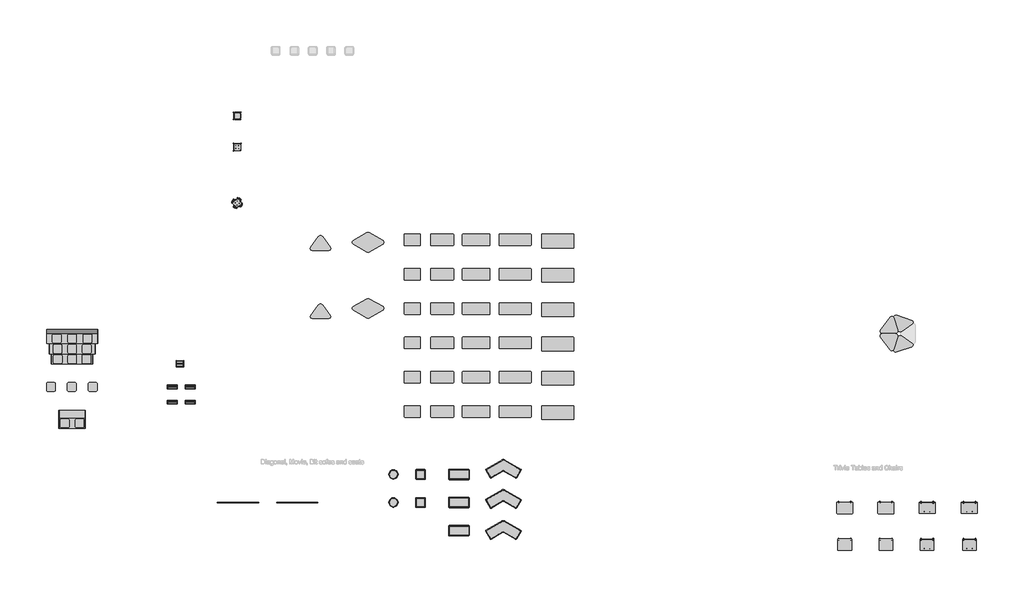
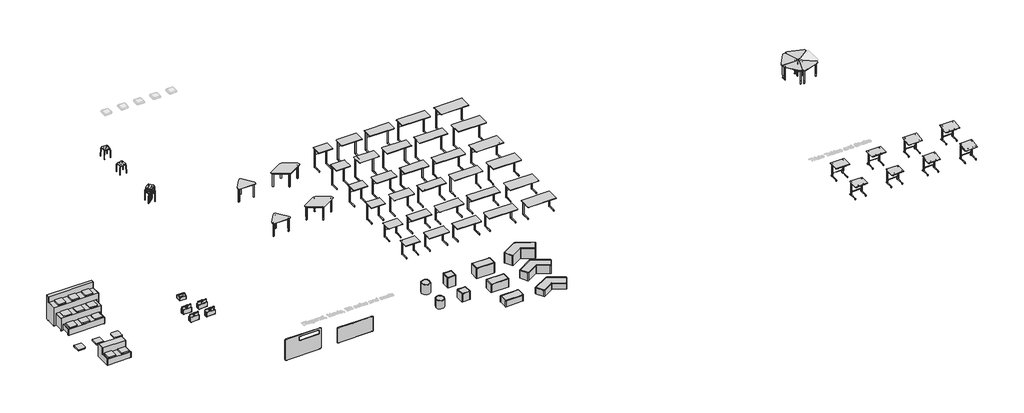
# One storey, part 1 of 3: 71 furniture elements.
"""IFC4 building model written with IfcOpenShell, lengths in millimetres."""

from ifc_helpers import new_model, si_unit, origin, place, context, project, spatial, transform, mapped, element, save
from components import furniture_db0b7f3e, furniture_9eec207e, furniture_e679e7c0, furniture_8e9b2c81, furniture_6e050dcf, furniture_99e5d853, furniture_2fb2c996, furniture_5ac924e7, furniture_68ec6503, furniture_adbca7c4, furniture_afccc64a, furniture_ba1f7010, furniture_1000x500x1050_e50aae5e, furniture_1000x500x1050_fa04ec47, furniture_1000x500x720_2b57773b, furniture_1000x500x720_1ab4b6b9, furniture_1000x500x900_0e950f99, furniture_1000x500x900_d3f5659b, furniture_1200x500x1050_40dc150c, furniture_1200x500x1050_c4544170, furniture_1200x500x720_ef4dc911, furniture_1200x500x720_f1a56f13, furniture_1200x500x900_81eecd61, furniture_1200x500x900_05afcf08, furniture_1400x500x1050_74984aaa, furniture_1400x500x1050_dd9b71a5, furniture_1400x500x720_4015ab0b, furniture_1400x500x720_7847da70, furniture_1400x500x900_2e7e93f1, furniture_1400x500x900_2e003761, furniture_1400x600x1050_ca868ebe, furniture_1400x600x1050_962015f3, furniture_1400x600x720_74c10038, furniture_1400x600x720_f75b4a46, furniture_1400x600x900_cad80be3, furniture_1400x600x900_4bad6f9f, furniture_341a_42_222ed563, furniture_341a_52_5a10b852, furniture_341d_42_66ac4a3a, furniture_341d_52_e6a476b8, furniture_341s_32_03bf6e16, furniture_341s_42_416b81a9, furniture_341s_52_23bdaefc, furniture_341t_32_6d22d566, furniture_341t_42_9560d308, furniture_341t_52_3980b9fb, furniture_45_upholstered_5a6439fb, furniture_60_drawer_d4275357, furniture_70_drawer_569eea59, furniture_700x500x1050_0ab8f7d2, furniture_700x500x1050_466b920c, furniture_700x500x720_5b69595e, furniture_700x500x720_3137e52e, furniture_700x500x900_84bb795d, furniture_700x500x900_e1185485, adjustable_legs_d527a67b, adjustable_legs_f4bd4072, black_e0d9a97f, blue_handle_9ea79cbd, diagonal_screen_high_bf20056d, diagonal_screen_low_975ad381

model = new_model("IFC4")

# Units and contexts
model_context = context("Model", 3, world=origin())
ifc_project = project(units=[si_unit("LENGTHUNIT", "METRE", prefix="MILLI")], contexts=[model_context])

# Site, building, storey
site = spatial("IfcSite", under=ifc_project)
building = spatial("IfcBuilding", under=site)
storey = spatial("IfcBuildingStorey", under=building, Name="Diagonal, Movie, Bit sofas and seats", Elevation=0.0)

# Furniture
placement = place(None, origin())
furniture_shape = furniture_db0b7f3e(model_context)
element("IfcFurniture", 1, ObjectType="Pinta Triangle : Legs without Castors", at=placement, inside=storey, context=model_context, shape_type="MappedRepresentation", body=[
    mapped(furniture_shape, transform((-23859.2794954, 28996.5809576, 0.0), x_axis=(0.0, -1.0, 0.0), y_axis=(1.0, 0.0, 0.0), z_axis=(0.0, 0.0, 1.0))),
])
furniture_2_shape = furniture_9eec207e(model_context)
element("IfcFurniture", 2, ObjectType="Salmiakki : Legs without Castors", at=placement, inside=storey, context=model_context, shape_type="MappedRepresentation", body=[
    mapped(furniture_2_shape, transform((-21777.737045, 29262.9137696, 0.0), x_axis=(1.0, 0.0, 0.0), y_axis=(0.0, 1.0, 0.0), z_axis=(0.0, 0.0, 1.0))),
])
furniture_3_shape = furniture_e679e7c0(model_context)
element("IfcFurniture", 3, ObjectType="Toolbox : Toolbox", at=placement, inside=storey, context=model_context, shape_type="MappedRepresentation", body=[
    mapped(furniture_3_shape, transform((-29996.9265714, 23897.4372715, 0.0), x_axis=(1.0, 0.0, 0.0), y_axis=(0.0, 1.0, 0.0), z_axis=(0.0, 0.0, 1.0))),
])
furniture_4_shape = furniture_8e9b2c81(model_context)
element("IfcFurniture", 4, ObjectType="Minibeat : Minibeat", at=placement, inside=storey, context=model_context, shape_type="MappedRepresentation", body=[
    mapped(furniture_4_shape, transform((-34706.992348, 21929.5317557, 0.0), x_axis=(1.0, 0.0, 0.0), y_axis=(0.0, 1.0, 0.0), z_axis=(0.0, 0.0, 1.0))),
])
furniture_5_shape = furniture_6e050dcf(model_context)
element("IfcFurniture", 5, ObjectType="Grip NxT Stool : 45 Unupholstered", at=placement, inside=storey, context=model_context, shape_type="MappedRepresentation", body=[
    mapped(furniture_5_shape, transform((-27497.4550405, 33433.2469564, 0.0), x_axis=(1.0, 0.0, 0.0), y_axis=(0.0, 1.0, 0.0), z_axis=(0.0, 0.0, 1.0))),
])
furniture_6_shape = furniture_99e5d853(model_context)
furniture_7_shape = furniture_2fb2c996(model_context)
furniture_8_shape = furniture_5ac924e7(model_context)
furniture_9_shape = furniture_68ec6503(model_context)
element("IfcFurniture", 6, ObjectType="Grip NxT Stool 45 Stack : 45 Unupholstered", at=placement, inside=storey, context=model_context, shape_type="MappedRepresentation", body=[
    mapped(furniture_6_shape, transform((-27497.4550405, 30982.3804266, 0.0), x_axis=(1.0, 0.0, 0.0), y_axis=(0.0, 1.0, 0.0), z_axis=(0.0, 0.0, 1.0))),
    mapped(furniture_7_shape, transform((-27497.4550405, 30982.3804266, 0.0), x_axis=(1.0, 0.0, 0.0), y_axis=(0.0, 1.0, 0.0), z_axis=(0.0, 0.0, 1.0))),
    mapped(furniture_8_shape, transform((-27497.4550405, 30982.3804266, 0.0), x_axis=(1.0, 0.0, 0.0), y_axis=(0.0, 1.0, 0.0), z_axis=(0.0, 0.0, 1.0))),
    mapped(furniture_9_shape, transform((-27497.4550405, 30982.3804266, 0.0), x_axis=(1.0, 0.0, 0.0), y_axis=(0.0, 1.0, 0.0), z_axis=(0.0, 0.0, 1.0))),
])
furniture_10_shape = furniture_adbca7c4(model_context)
element("IfcFurniture", 7, ObjectType="Trivia table : 60 tiltable", at=placement, inside=storey, context=model_context, shape_type="MappedRepresentation", body=[
    mapped(furniture_10_shape, transform((2641.0079217, 16044.9910202, 0.0), x_axis=(1.0000000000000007, 0.0, 0.0), y_axis=(0.0, 1.0000000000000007, 0.0), z_axis=(0.0, 0.0, 1.0))),
])
furniture_11_shape = furniture_afccc64a(model_context)
element("IfcFurniture", 8, ObjectType="Trivia table : 70 tiltable", at=placement, inside=storey, context=model_context, shape_type="MappedRepresentation", body=[
    mapped(furniture_11_shape, transform((2641.0079217, 17658.3691144, 0.0), x_axis=(1.0, 0.0, 0.0), y_axis=(0.0, 1.0, 0.0), z_axis=(0.0, 0.0, 1.0))),
])
element("IfcFurniture", 9, ObjectType="Trivia table : 60 tiltable with drawer", at=placement, inside=storey, context=model_context, shape_type="MappedRepresentation", body=[
    mapped(furniture_10_shape, transform((4489.3591067, 16044.9910202, 0.0), x_axis=(1.0000000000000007, 0.0, 0.0), y_axis=(0.0, 1.0000000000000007, 0.0), z_axis=(0.0, 0.0, 1.0))),
])
element("IfcFurniture", 10, ObjectType="Trivia table : 70 tiltable with drawer", at=placement, inside=storey, context=model_context, shape_type="MappedRepresentation", body=[
    mapped(furniture_11_shape, transform((4489.3591067, 17658.3691144, 0.0), x_axis=(1.0, 0.0, 0.0), y_axis=(0.0, 1.0, 0.0), z_axis=(0.0, 0.0, 1.0))),
])
furniture_12_shape = furniture_ba1f7010(model_context)
element("IfcFurniture", 11, ObjectType="Beatbox : Beatbox", at=placement, inside=storey, context=model_context, shape_type="MappedRepresentation", body=[
    mapped(furniture_12_shape, transform((-34706.992348, 25449.7033083, 0.0), x_axis=(1.0, 0.0, 0.0), y_axis=(0.0, 1.0, 0.0), z_axis=(0.0, 0.0, 1.0))),
])
furniture_1000x500x1050_shape = furniture_1000x500x1050_e50aae5e(model_context)
element("IfcFurniture", 12, ObjectType="Trivia Light : 1000x500x1050", at=placement, inside=storey, context=model_context, shape_type="MappedRepresentation", body=[
    mapped(furniture_1000x500x1050_shape, transform((-18543.8709894, 29622.4496788, 0.0), x_axis=(-1.0, 0.0, 0.0), y_axis=(0.0, -1.0, 0.0), z_axis=(0.0, 0.0, 1.0))),
])
furniture_1000x500x1050_2_shape = furniture_1000x500x1050_fa04ec47(model_context)
element("IfcFurniture", 13, ObjectType="Trivia Light : 1000x500x1050", at=placement, inside=storey, context=model_context, shape_type="MappedRepresentation", body=[
    mapped(furniture_1000x500x1050_2_shape, transform((-18543.8709894, 28122.4496788, 0.0), x_axis=(-1.0, 0.0, 0.0), y_axis=(0.0, -1.0, 0.0), z_axis=(0.0, 0.0, 1.0))),
])
furniture_1000x500x720_shape = furniture_1000x500x720_2b57773b(model_context)
element("IfcFurniture", 14, ObjectType="Trivia Light : 1000x500x720", at=placement, inside=storey, context=model_context, shape_type="MappedRepresentation", body=[
    mapped(furniture_1000x500x720_shape, transform((-18543.8709894, 22122.4496788, 0.0), x_axis=(-1.0, 0.0, 0.0), y_axis=(0.0, -1.0, 0.0), z_axis=(0.0, 0.0, 1.0))),
])
furniture_1000x500x720_2_shape = furniture_1000x500x720_1ab4b6b9(model_context)
element("IfcFurniture", 15, ObjectType="Trivia Light : 1000x500x720", at=placement, inside=storey, context=model_context, shape_type="MappedRepresentation", body=[
    mapped(furniture_1000x500x720_2_shape, transform((-18543.8709894, 23622.4496788, 0.0), x_axis=(-1.0, 0.0, 0.0), y_axis=(0.0, -1.0, 0.0), z_axis=(0.0, 0.0, 1.0))),
])
furniture_1000x500x900_shape = furniture_1000x500x900_0e950f99(model_context)
element("IfcFurniture", 16, ObjectType="Trivia Light : 1000x500x900", at=placement, inside=storey, context=model_context, shape_type="MappedRepresentation", body=[
    mapped(furniture_1000x500x900_shape, transform((-18543.8709894, 26622.4496788, 0.0), x_axis=(-1.0, 0.0, 0.0), y_axis=(0.0, -1.0, 0.0), z_axis=(0.0, 0.0, 1.0))),
])
furniture_1000x500x900_2_shape = furniture_1000x500x900_d3f5659b(model_context)
element("IfcFurniture", 17, ObjectType="Trivia Light : 1000x500x900", at=placement, inside=storey, context=model_context, shape_type="MappedRepresentation", body=[
    mapped(furniture_1000x500x900_2_shape, transform((-18543.8709894, 25122.4496788, 0.0), x_axis=(-1.0, 0.0, 0.0), y_axis=(0.0, -1.0, 0.0), z_axis=(0.0, 0.0, 1.0))),
])
furniture_1200x500x1050_shape = furniture_1200x500x1050_40dc150c(model_context)
element("IfcFurniture", 18, ObjectType="Trivia Light : 1200x500x1050", at=placement, inside=storey, context=model_context, shape_type="MappedRepresentation", body=[
    mapped(furniture_1200x500x1050_shape, transform((-17054.5306402, 29622.4496788, 0.0), x_axis=(-1.0, 0.0, 0.0), y_axis=(0.0, -1.0, 0.0), z_axis=(0.0, 0.0, 1.0))),
])
furniture_1200x500x1050_2_shape = furniture_1200x500x1050_c4544170(model_context)
element("IfcFurniture", 19, ObjectType="Trivia Light : 1200x500x1050", at=placement, inside=storey, context=model_context, shape_type="MappedRepresentation", body=[
    mapped(furniture_1200x500x1050_2_shape, transform((-17054.5306402, 28122.4496788, 0.0), x_axis=(-1.0, 0.0, 0.0), y_axis=(0.0, -1.0, 0.0), z_axis=(0.0, 0.0, 1.0))),
])
furniture_1200x500x720_shape = furniture_1200x500x720_ef4dc911(model_context)
element("IfcFurniture", 20, ObjectType="Trivia Light : 1200x500x720", at=placement, inside=storey, context=model_context, shape_type="MappedRepresentation", body=[
    mapped(furniture_1200x500x720_shape, transform((-17054.5306402, 22122.4496788, 0.0), x_axis=(-1.0, 0.0, 0.0), y_axis=(0.0, -1.0, 0.0), z_axis=(0.0, 0.0, 1.0))),
])
furniture_1200x500x720_2_shape = furniture_1200x500x720_f1a56f13(model_context)
element("IfcFurniture", 21, ObjectType="Trivia Light : 1200x500x720", at=placement, inside=storey, context=model_context, shape_type="MappedRepresentation", body=[
    mapped(furniture_1200x500x720_2_shape, transform((-17054.5306402, 23622.4496788, 0.0), x_axis=(-1.0, 0.0, 0.0), y_axis=(0.0, -1.0, 0.0), z_axis=(0.0, 0.0, 1.0))),
])
furniture_1200x500x900_shape = furniture_1200x500x900_81eecd61(model_context)
element("IfcFurniture", 22, ObjectType="Trivia Light : 1200x500x900", at=placement, inside=storey, context=model_context, shape_type="MappedRepresentation", body=[
    mapped(furniture_1200x500x900_shape, transform((-17054.5306402, 26622.4496788, 0.0), x_axis=(-1.0, 0.0, 0.0), y_axis=(0.0, -1.0, 0.0), z_axis=(0.0, 0.0, 1.0))),
])
furniture_1200x500x900_2_shape = furniture_1200x500x900_05afcf08(model_context)
element("IfcFurniture", 23, ObjectType="Trivia Light : 1200x500x900", at=placement, inside=storey, context=model_context, shape_type="MappedRepresentation", body=[
    mapped(furniture_1200x500x900_2_shape, transform((-17054.5306402, 25122.4496788, 0.0), x_axis=(-1.0, 0.0, 0.0), y_axis=(0.0, -1.0, 0.0), z_axis=(0.0, 0.0, 1.0))),
])
furniture_1400x500x1050_shape = furniture_1400x500x1050_74984aaa(model_context)
element("IfcFurniture", 24, ObjectType="Trivia Light : 1400x500x1050", at=placement, inside=storey, context=model_context, shape_type="MappedRepresentation", body=[
    mapped(furniture_1400x500x1050_shape, transform((-15358.5688036, 29622.4496788, 0.0), x_axis=(-1.0, 0.0, 0.0), y_axis=(0.0, -1.0, 0.0), z_axis=(0.0, 0.0, 1.0))),
])
furniture_1400x500x1050_2_shape = furniture_1400x500x1050_dd9b71a5(model_context)
element("IfcFurniture", 25, ObjectType="Trivia Light : 1400x500x1050", at=placement, inside=storey, context=model_context, shape_type="MappedRepresentation", body=[
    mapped(furniture_1400x500x1050_2_shape, transform((-15358.5688036, 28122.4496788, 0.0), x_axis=(-1.0, 0.0, 0.0), y_axis=(0.0, -1.0, 0.0), z_axis=(0.0, 0.0, 1.0))),
])
furniture_1400x500x720_shape = furniture_1400x500x720_4015ab0b(model_context)
element("IfcFurniture", 26, ObjectType="Trivia Light : 1400x500x720", at=placement, inside=storey, context=model_context, shape_type="MappedRepresentation", body=[
    mapped(furniture_1400x500x720_shape, transform((-15358.5688036, 22122.4496788, 0.0), x_axis=(-1.0, 0.0, 0.0), y_axis=(0.0, -1.0, 0.0), z_axis=(0.0, 0.0, 1.0))),
])
furniture_1400x500x720_2_shape = furniture_1400x500x720_7847da70(model_context)
element("IfcFurniture", 27, ObjectType="Trivia Light : 1400x500x720", at=placement, inside=storey, context=model_context, shape_type="MappedRepresentation", body=[
    mapped(furniture_1400x500x720_2_shape, transform((-15358.5688036, 23622.4496788, 0.0), x_axis=(-1.0, 0.0, 0.0), y_axis=(0.0, -1.0, 0.0), z_axis=(0.0, 0.0, 1.0))),
])
furniture_1400x500x900_shape = furniture_1400x500x900_2e7e93f1(model_context)
element("IfcFurniture", 28, ObjectType="Trivia Light : 1400x500x900", at=placement, inside=storey, context=model_context, shape_type="MappedRepresentation", body=[
    mapped(furniture_1400x500x900_shape, transform((-15358.5688036, 26622.4496788, 0.0), x_axis=(-1.0, 0.0, 0.0), y_axis=(0.0, -1.0, 0.0), z_axis=(0.0, 0.0, 1.0))),
])
furniture_1400x500x900_2_shape = furniture_1400x500x900_2e003761(model_context)
element("IfcFurniture", 29, ObjectType="Trivia Light : 1400x500x900", at=placement, inside=storey, context=model_context, shape_type="MappedRepresentation", body=[
    mapped(furniture_1400x500x900_2_shape, transform((-15358.5688036, 25122.4496788, 0.0), x_axis=(-1.0, 0.0, 0.0), y_axis=(0.0, -1.0, 0.0), z_axis=(0.0, 0.0, 1.0))),
])
furniture_1400x600x1050_shape = furniture_1400x600x1050_ca868ebe(model_context)
element("IfcFurniture", 30, ObjectType="Trivia Light : 1400x600x1050", at=placement, inside=storey, context=model_context, shape_type="MappedRepresentation", body=[
    mapped(furniture_1400x600x1050_shape, transform((-13498.5688036, 29622.4496788, 0.0), x_axis=(-1.0, 0.0, 0.0), y_axis=(0.0, -1.0, 0.0), z_axis=(0.0, 0.0, 1.0))),
])
furniture_1400x600x1050_2_shape = furniture_1400x600x1050_962015f3(model_context)
element("IfcFurniture", 31, ObjectType="Trivia Light : 1400x600x1050", at=placement, inside=storey, context=model_context, shape_type="MappedRepresentation", body=[
    mapped(furniture_1400x600x1050_2_shape, transform((-13498.5688036, 28122.4496788, 0.0), x_axis=(-1.0, 0.0, 0.0), y_axis=(0.0, -1.0, 0.0), z_axis=(0.0, 0.0, 1.0))),
])
furniture_1400x600x720_shape = furniture_1400x600x720_74c10038(model_context)
element("IfcFurniture", 32, ObjectType="Trivia Light : 1400x600x720", at=placement, inside=storey, context=model_context, shape_type="MappedRepresentation", body=[
    mapped(furniture_1400x600x720_shape, transform((-13498.5688036, 22122.4496788, 0.0), x_axis=(-1.0, 0.0, 0.0), y_axis=(0.0, -1.0, 0.0), z_axis=(0.0, 0.0, 1.0))),
])
furniture_1400x600x720_2_shape = furniture_1400x600x720_f75b4a46(model_context)
element("IfcFurniture", 33, ObjectType="Trivia Light : 1400x600x720", at=placement, inside=storey, context=model_context, shape_type="MappedRepresentation", body=[
    mapped(furniture_1400x600x720_2_shape, transform((-13498.5688036, 23622.4496788, 0.0), x_axis=(-1.0, 0.0, 0.0), y_axis=(0.0, -1.0, 0.0), z_axis=(0.0, 0.0, 1.0))),
])
furniture_1400x600x900_shape = furniture_1400x600x900_cad80be3(model_context)
element("IfcFurniture", 34, ObjectType="Trivia Light : 1400x600x900", at=placement, inside=storey, context=model_context, shape_type="MappedRepresentation", body=[
    mapped(furniture_1400x600x900_shape, transform((-13498.5688036, 26622.4496788, 0.0), x_axis=(-1.0, 0.0, 0.0), y_axis=(0.0, -1.0, 0.0), z_axis=(0.0, 0.0, 1.0))),
])
furniture_1400x600x900_2_shape = furniture_1400x600x900_4bad6f9f(model_context)
element("IfcFurniture", 35, ObjectType="Trivia Light : 1400x600x900", at=placement, inside=storey, context=model_context, shape_type="MappedRepresentation", body=[
    mapped(furniture_1400x600x900_2_shape, transform((-13498.5688036, 25122.4496788, 0.0), x_axis=(-1.0, 0.0, 0.0), y_axis=(0.0, -1.0, 0.0), z_axis=(0.0, 0.0, 1.0))),
])
furniture_341a_42_shape = furniture_341a_42_222ed563(model_context)
element("IfcFurniture", 36, ObjectType="Bit Stool : 341A(42)", at=placement, inside=storey, context=model_context, shape_type="MappedRepresentation", body=[
    mapped(furniture_341a_42_shape, transform((-19485.0148436, 17893.5521309, 0.0), x_axis=(1.0, 0.0, 0.0), y_axis=(0.0, 1.0, 0.0), z_axis=(0.0, 0.0, 1.0))),
])
furniture_341a_52_shape = furniture_341a_52_5a10b852(model_context)
element("IfcFurniture", 37, ObjectType="Bit Stool : 341A(52)", at=placement, inside=storey, context=model_context, shape_type="MappedRepresentation", body=[
    mapped(furniture_341a_52_shape, transform((-19485.0148436, 19118.5730369, 0.0), x_axis=(1.0, 0.0, 0.0), y_axis=(0.0, 1.0, 0.0), z_axis=(0.0, 0.0, 1.0))),
])
furniture_341d_42_shape = furniture_341d_42_66ac4a3a(model_context)
element("IfcFurniture", 38, ObjectType="Bit Round : 341D(42)", at=placement, inside=storey, context=model_context, shape_type="MappedRepresentation", body=[
    mapped(furniture_341d_42_shape, transform((-20669.1953545, 17893.5521309, 0.0), x_axis=(1.0, 0.0, 0.0), y_axis=(0.0, 1.0, 0.0), z_axis=(0.0, 0.0, 1.0))),
])
furniture_341d_52_shape = furniture_341d_52_e6a476b8(model_context)
element("IfcFurniture", 39, ObjectType="Bit Round : 341D(52)", at=placement, inside=storey, context=model_context, shape_type="MappedRepresentation", body=[
    mapped(furniture_341d_52_shape, transform((-20669.1953545, 19118.5730369, 0.0), x_axis=(1.0, 0.0, 0.0), y_axis=(0.0, 1.0, 0.0), z_axis=(0.0, 0.0, 1.0))),
])
furniture_341s_32_shape = furniture_341s_32_03bf6e16(model_context)
element("IfcFurniture", 40, ObjectType="Bit Stick : 341S(32)", at=placement, inside=storey, context=model_context, shape_type="MappedRepresentation", body=[
    mapped(furniture_341s_32_shape, transform((-17811.4221017, 16661.9047589, 0.0), x_axis=(1.0, 0.0, 0.0), y_axis=(0.0, 1.0, 0.0), z_axis=(0.0, 0.0, 1.0))),
])
furniture_341s_42_shape = furniture_341s_42_416b81a9(model_context)
element("IfcFurniture", 41, ObjectType="Bit Stick : 341S(42)", at=placement, inside=storey, context=model_context, shape_type="MappedRepresentation", body=[
    mapped(furniture_341s_42_shape, transform((-17811.4221017, 17893.5521309, 0.0), x_axis=(1.0, 0.0, 0.0), y_axis=(0.0, 1.0, 0.0), z_axis=(0.0, 0.0, 1.0))),
])
furniture_341s_52_shape = furniture_341s_52_23bdaefc(model_context)
element("IfcFurniture", 42, ObjectType="Bit Stick : 341S(52)", at=placement, inside=storey, context=model_context, shape_type="MappedRepresentation", body=[
    mapped(furniture_341s_52_shape, transform((-17811.4221017, 19118.5730369, 0.0), x_axis=(1.0, 0.0, 0.0), y_axis=(0.0, 1.0, 0.0), z_axis=(0.0, 0.0, 1.0))),
])
furniture_341t_32_shape = furniture_341t_32_6d22d566(model_context)
element("IfcFurniture", 43, ObjectType="Bit Twist : 341T(32)", at=placement, inside=storey, context=model_context, shape_type="MappedRepresentation", body=[
    mapped(furniture_341t_32_shape, transform((-15870.2478763, 16661.9047589, 0.0), x_axis=(1.0, 0.0, 0.0), y_axis=(0.0, 1.0, 0.0), z_axis=(0.0, 0.0, 1.0))),
])
furniture_341t_42_shape = furniture_341t_42_9560d308(model_context)
element("IfcFurniture", 44, ObjectType="Bit Twist : 341T(42)", at=placement, inside=storey, context=model_context, shape_type="MappedRepresentation", body=[
    mapped(furniture_341t_42_shape, transform((-15870.2478763, 18017.5902597, 0.0), x_axis=(1.0, 0.0, 0.0), y_axis=(0.0, 1.0, 0.0), z_axis=(0.0, 0.0, 1.0))),
])
furniture_341t_52_shape = furniture_341t_52_3980b9fb(model_context)
element("IfcFurniture", 45, ObjectType="Bit Twist : 341T(52)", at=placement, inside=storey, context=model_context, shape_type="MappedRepresentation", body=[
    mapped(furniture_341t_52_shape, transform((-15870.2478763, 19336.6948038, 0.0), x_axis=(1.0, 0.0, 0.0), y_axis=(0.0, 1.0, 0.0), z_axis=(0.0, 0.0, 1.0))),
])
furniture_45_upholstered_shape = furniture_45_upholstered_5a6439fb(model_context)
element("IfcFurniture", 46, ObjectType="Grip NxT Stool : 45 Upholstered", at=placement, inside=storey, context=model_context, shape_type="MappedRepresentation", body=[
    mapped(furniture_45_upholstered_shape, transform((-27497.4550405, 34793.3647024, 0.0), x_axis=(1.0, 0.0, 0.0), y_axis=(0.0, 1.0, 0.0), z_axis=(0.0, 0.0, 1.0))),
])
furniture_60_drawer_shape = furniture_60_drawer_d4275357(model_context)
element("IfcFurniture", 47, ObjectType="Trivia table : 60", at=placement, inside=storey, context=model_context, shape_type="MappedRepresentation", body=[
    mapped(furniture_60_drawer_shape, transform((-958.9920783, 16044.9910202, 0.0), x_axis=(1.0000000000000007, 0.0, 0.0), y_axis=(0.0, 1.0000000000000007, 0.0), z_axis=(0.0, 0.0, 1.0))),
])
element("IfcFurniture", 48, ObjectType="Trivia table : 60 drawer", at=placement, inside=storey, context=model_context, shape_type="MappedRepresentation", body=[
    mapped(furniture_60_drawer_shape, transform((841.0079217, 16044.9910202, 0.0), x_axis=(1.0000000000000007, 0.0, 0.0), y_axis=(0.0, 1.0000000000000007, 0.0), z_axis=(0.0, 0.0, 1.0))),
])
furniture_70_drawer_shape = furniture_70_drawer_569eea59(model_context)
element("IfcFurniture", 49, ObjectType="Trivia table : 70", at=placement, inside=storey, context=model_context, shape_type="MappedRepresentation", body=[
    mapped(furniture_70_drawer_shape, transform((-958.9920783, 17658.3691144, 0.0), x_axis=(1.0, 0.0, 0.0), y_axis=(0.0, 1.0, 0.0), z_axis=(0.0, 0.0, 1.0))),
])
element("IfcFurniture", 50, ObjectType="Trivia table : 70 drawer", at=placement, inside=storey, context=model_context, shape_type="MappedRepresentation", body=[
    mapped(furniture_70_drawer_shape, transform((841.0079217, 17658.3691144, 0.0), x_axis=(1.0, 0.0, 0.0), y_axis=(0.0, 1.0, 0.0), z_axis=(0.0, 0.0, 1.0))),
])
furniture_700x500x1050_shape = furniture_700x500x1050_0ab8f7d2(model_context)
element("IfcFurniture", 51, ObjectType="Trivia Light : 700x500x1050", at=placement, inside=storey, context=model_context, shape_type="MappedRepresentation", body=[
    mapped(furniture_700x500x1050_shape, transform((-19843.8709894, 29622.4496788, 0.0), x_axis=(-1.0, 0.0, 0.0), y_axis=(0.0, -1.0, 0.0), z_axis=(0.0, 0.0, 1.0))),
])
furniture_700x500x1050_2_shape = furniture_700x500x1050_466b920c(model_context)
element("IfcFurniture", 52, ObjectType="Trivia Light : 700x500x1050", at=placement, inside=storey, context=model_context, shape_type="MappedRepresentation", body=[
    mapped(furniture_700x500x1050_2_shape, transform((-19843.8709894, 28122.4496788, 0.0), x_axis=(-1.0, 0.0, 0.0), y_axis=(0.0, -1.0, 0.0), z_axis=(0.0, 0.0, 1.0))),
])
furniture_700x500x720_shape = furniture_700x500x720_5b69595e(model_context)
element("IfcFurniture", 53, ObjectType="Trivia Light : 700x500x720", at=placement, inside=storey, context=model_context, shape_type="MappedRepresentation", body=[
    mapped(furniture_700x500x720_shape, transform((-19843.8709894, 22122.4496788, 0.0), x_axis=(-1.0, 0.0, 0.0), y_axis=(0.0, -1.0, 0.0), z_axis=(0.0, 0.0, 1.0))),
])
furniture_700x500x720_2_shape = furniture_700x500x720_3137e52e(model_context)
element("IfcFurniture", 54, ObjectType="Trivia Light : 700x500x720", at=placement, inside=storey, context=model_context, shape_type="MappedRepresentation", body=[
    mapped(furniture_700x500x720_2_shape, transform((-19843.8709894, 23622.4496788, 0.0), x_axis=(-1.0, 0.0, 0.0), y_axis=(0.0, -1.0, 0.0), z_axis=(0.0, 0.0, 1.0))),
])
furniture_700x500x900_shape = furniture_700x500x900_84bb795d(model_context)
element("IfcFurniture", 55, ObjectType="Trivia Light : 700x500x900", at=placement, inside=storey, context=model_context, shape_type="MappedRepresentation", body=[
    mapped(furniture_700x500x900_shape, transform((-19843.8709894, 26622.4496788, 0.0), x_axis=(-1.0, 0.0, 0.0), y_axis=(0.0, -1.0, 0.0), z_axis=(0.0, 0.0, 1.0))),
])
furniture_700x500x900_2_shape = furniture_700x500x900_e1185485(model_context)
element("IfcFurniture", 56, ObjectType="Trivia Light : 700x500x900", at=placement, inside=storey, context=model_context, shape_type="MappedRepresentation", body=[
    mapped(furniture_700x500x900_2_shape, transform((-19843.8709894, 25122.4496788, 0.0), x_axis=(-1.0, 0.0, 0.0), y_axis=(0.0, -1.0, 0.0), z_axis=(0.0, 0.0, 1.0))),
])
adjustable_legs_shape = adjustable_legs_d527a67b(model_context)
element("IfcFurniture", 57, ObjectType="Pinta Triangle : Adjustable Legs", at=placement, inside=storey, context=model_context, shape_type="MappedRepresentation", body=[
    mapped(adjustable_legs_shape, transform((1600.9473573, 25889.7533716, 0.0), x_axis=(0.3090169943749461, 0.951056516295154, 0.0), y_axis=(-0.951056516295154, 0.3090169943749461, 0.0), z_axis=(0.0, 0.0, 1.0))),
])
element("IfcFurniture", 58, ObjectType="Pinta Triangle : Adjustable Legs", at=placement, inside=storey, context=model_context, shape_type="MappedRepresentation", body=[
    mapped(adjustable_legs_shape, transform((879.3519006, 25655.292795, 0.0), x_axis=(-0.8090169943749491, 0.5877852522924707, 0.0), y_axis=(-0.5877852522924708, -0.8090169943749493, 0.0), z_axis=(0.0, 0.0, 1.0000000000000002))),
])
element("IfcFurniture", 59, ObjectType="Pinta Triangle : Adjustable Legs", at=placement, inside=storey, context=model_context, shape_type="MappedRepresentation", body=[
    mapped(adjustable_legs_shape, transform((879.3519006, 24896.5624311, 0.0), x_axis=(-0.8090169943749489, -0.5877852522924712, 0.0), y_axis=(0.5877852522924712, -0.8090169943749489, 0.0), z_axis=(0.0, 0.0, 1.0))),
])
element("IfcFurniture", 60, ObjectType="Pinta Triangle : Adjustable Legs", at=placement, inside=storey, context=model_context, shape_type="MappedRepresentation", body=[
    mapped(adjustable_legs_shape, transform((1600.9473573, 24662.1018545, 0.0), x_axis=(0.3090169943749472, -0.9510565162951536, 0.0), y_axis=(0.9510565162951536, 0.3090169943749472, 0.0), z_axis=(0.0, 0.0, 1.0))),
])
element("IfcFurniture", 61, ObjectType="Pinta Triangle : Adjustable Legs", at=placement, inside=storey, context=model_context, shape_type="MappedRepresentation", body=[
    mapped(adjustable_legs_shape, transform((-23859.2794954, 26016.3002149, 0.0), x_axis=(0.0, -1.0, 0.0), y_axis=(1.0, 0.0, 0.0), z_axis=(0.0, 0.0, 1.0))),
])
adjustable_legs_2_shape = adjustable_legs_f4bd4072(model_context)
element("IfcFurniture", 62, ObjectType="Salmiakki : Adjustable Legs", at=placement, inside=storey, context=model_context, shape_type="MappedRepresentation", body=[
    mapped(adjustable_legs_2_shape, transform((-21777.737045, 26378.235764, 0.0), x_axis=(1.0, 0.0, 0.0), y_axis=(0.0, 1.0, 0.0), z_axis=(0.0, 0.0, 1.0))),
])
black_shape = black_e0d9a97f(model_context)
element("IfcFurniture", 63, ObjectType="Puffet : Black", at=placement, inside=storey, context=model_context, shape_type="MappedRepresentation", body=[
    mapped(black_shape, transform((-35631.3677383, 22953.0028903, 0.0), x_axis=(1.0, 0.0, 0.0), y_axis=(0.0, 1.0, 0.0), z_axis=(0.0, 0.0, 1.0))),
])
blue_handle_shape = blue_handle_9ea79cbd(model_context)
element("IfcFurniture", 64, ObjectType="Gobag : Blue Handle", at=placement, inside=storey, context=model_context, shape_type="MappedRepresentation", body=[
    mapped(blue_handle_shape, transform((-30328.263812, 22282.2381628, 0.0), x_axis=(1.0, 0.0, 0.0), y_axis=(0.0, 1.0, 0.0), z_axis=(0.0, 0.0, 1.0))),
])
diagonal_screen_high_shape = diagonal_screen_high_bf20056d(model_context)
element("IfcFurniture", 65, ObjectType="Diagonal Screen : High", at=placement, inside=storey, context=model_context, shape_type="MappedRepresentation", body=[
    mapped(diagonal_screen_high_shape, transform((-27459.8583427, 17893.5521309, -207.4773178), x_axis=(1.0, 0.0, 0.0), y_axis=(0.0, 1.0, 0.0), z_axis=(0.0, 0.0, 1.0))),
])
diagonal_screen_low_shape = diagonal_screen_low_975ad381(model_context)
element("IfcFurniture", 66, ObjectType="Diagonal Screen : Low", at=placement, inside=storey, context=model_context, shape_type="MappedRepresentation", body=[
    mapped(diagonal_screen_low_shape, transform((-24872.828434, 17893.5521309, -207.4773178), x_axis=(1.0, 0.0, 0.0), y_axis=(0.0, 1.0, 0.0), z_axis=(0.0, 0.0, 1.0))),
])
element("IfcFurniture", 67, ObjectType="Gobag : Green Handle", at=placement, inside=storey, context=model_context, shape_type="MappedRepresentation", body=[
    mapped(blue_handle_shape, transform((-29548.263812, 22942.2381628, 0.0), x_axis=(1.0, 0.0, 0.0), y_axis=(0.0, 1.0, 0.0), z_axis=(0.0, 0.0, 1.0))),
])
element("IfcFurniture", 68, ObjectType="Puffet : Grey", at=placement, inside=storey, context=model_context, shape_type="MappedRepresentation", body=[
    mapped(black_shape, transform((-34725.5024283, 22953.0028903, 0.0), x_axis=(1.0, 0.0, 0.0), y_axis=(0.0, 1.0, 0.0), z_axis=(0.0, 0.0, 1.0))),
])
element("IfcFurniture", 69, ObjectType="Puffet : Light Grey", at=placement, inside=storey, context=model_context, shape_type="MappedRepresentation", body=[
    mapped(black_shape, transform((-33804.026914, 22953.0028903, 0.0), x_axis=(1.0, 0.0, 0.0), y_axis=(0.0, 1.0, 0.0), z_axis=(0.0, 0.0, 1.0))),
])
element("IfcFurniture", 70, ObjectType="Gobag : Orange Handle", at=placement, inside=storey, context=model_context, shape_type="MappedRepresentation", body=[
    mapped(blue_handle_shape, transform((-30328.263812, 22942.2381628, 0.0), x_axis=(1.0, 0.0, 0.0), y_axis=(0.0, 1.0, 0.0), z_axis=(0.0, 0.0, 1.0))),
])
element("IfcFurniture", 71, ObjectType="Gobag : Red Handle", at=placement, inside=storey, context=model_context, shape_type="MappedRepresentation", body=[
    mapped(blue_handle_shape, transform((-29548.263812, 22282.2381628, 0.0), x_axis=(1.0, 0.0, 0.0), y_axis=(0.0, 1.0, 0.0), z_axis=(0.0, 0.0, 1.0))),
])

save(model, "model.ifc")
